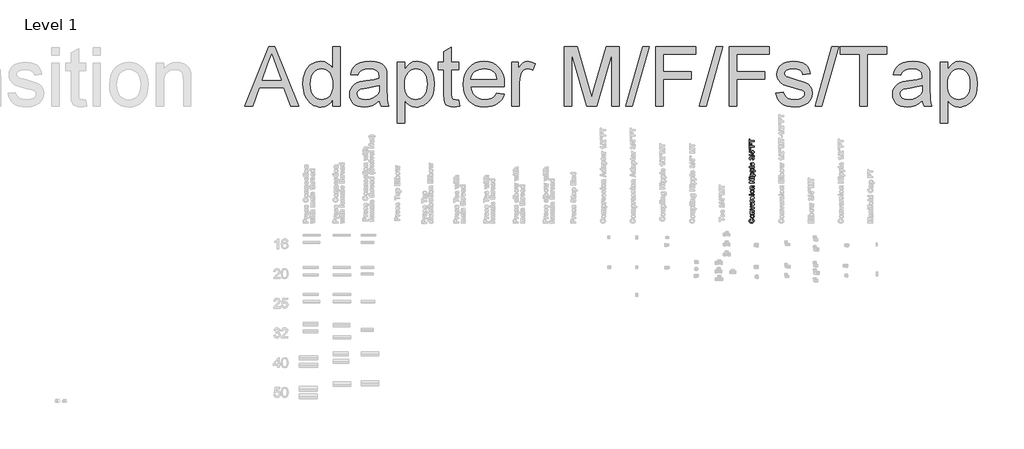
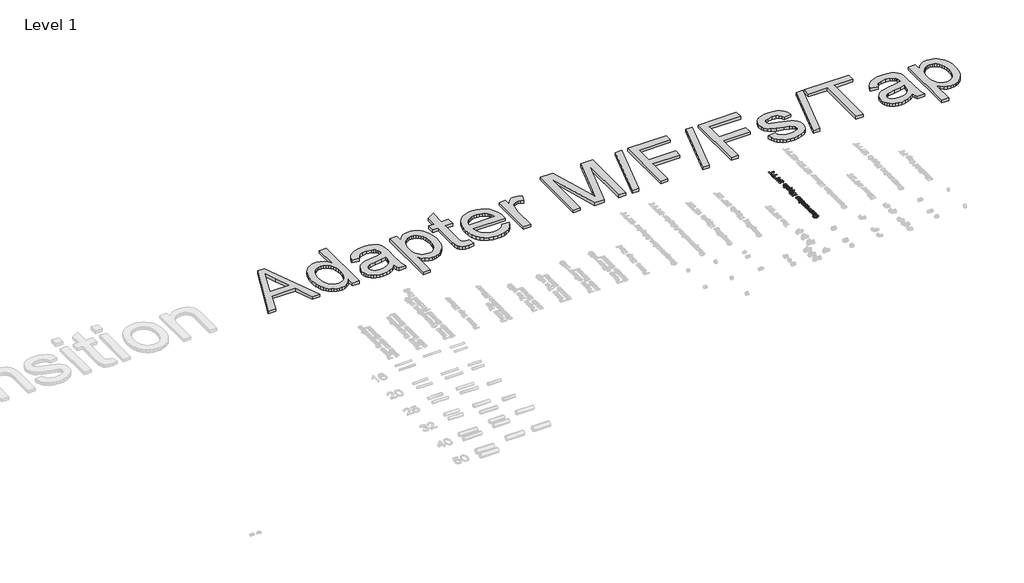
# One storey, part 56 of 58: 2 proxies.
"""IFC4 building model written with IfcOpenShell, lengths in millimetres."""

from ifc_helpers import new_model, si_unit, frame, origin, place, context, project, spatial, polyline, outline, extrude, element, save

model = new_model("IFC4")

# Units and contexts
model_context = context("Model", 3, world=origin())
ifc_project = project(units=[si_unit("LENGTHUNIT", "METRE", prefix="MILLI")], contexts=[model_context])

# Site, building, storey
site = spatial("IfcSite", under=ifc_project)
building = spatial("IfcBuilding", under=site)
storey = spatial("IfcBuildingStorey", under=building, Name="Level 1", Elevation=27.3876384)

# Proxies
placement = place(None, origin())
element("IfcBuildingElementProxy", 1, Name="50mm Arial", ObjectType="50mm Arial", at=placement, inside=storey, context=model_context, shape_type="SweptSolid", body=[
    extrude(outline(polyline([(33899.7082138, 30439.3748851), (33902.9471325, 30449.0916413), (33915.1500119, 30441.4371654), (33919.1417262, 30427.8488892), (33917.4368656, 30418.5717909), (33912.322284, 30411.1102584), (33904.2502912, 30406.1949462), (33893.6731973, 30404.5565088), (33882.5583922, 30406.2091797), (33874.2396849, 30411.1671925), (33869.0491911, 30418.8200869), (33867.3190265, 30428.5574026), (33868.7455425, 30437.0848684), (33873.0250904, 30443.8410504), (33882.7038905, 30449.0916413), (33884.3233498, 30439.3748851), (33878.3958755, 30435.3452148), (33876.226053, 30427.8868453), (33880.1671592, 30418.0498948), (33892.9267277, 30414.273265), (33906.2619634, 30417.9360266), (33910.2346997, 30427.4693284), (33907.6979684, 30434.9023938), (33899.7082138, 30439.3748851)])), frame((0.0, 0.0, 27.3876384), z_axis=(0.0, 0.0, 1.0), x_axis=(1.0, 0.0, 0.0)), (0.0, 0.0, 1.0), 2.0),
    extrude(outline(polyline([(33899.9865584, 30454.7597491), (33890.5038647, 30457.1573081), (33883.5009681, 30463.9451202), (33881.0844311, 30473.7504406), (33886.5627585, 30487.4715631), (33900.4167273, 30492.8170442), (33914.4035423, 30487.4146289), (33919.9514559, 30473.8263527), (33917.6424611, 30464.1538786), (33910.867301, 30457.1573081), (33899.9865584, 30454.7597491)]), holes=[polyline([(33900.5179435, 30464.4765053), (33909.5325122, 30467.1650609), (33912.6638887, 30473.8010487), (33909.5325122, 30480.4243844), (33900.4420313, 30483.100288), (33891.5033747, 30480.4243844), (33888.3719982, 30473.8010487), (33891.5033747, 30467.1650609), (33900.5179435, 30464.4765053)])]), frame((0.0, 0.0, 27.3876384), z_axis=(0.0, 0.0, 1.0), x_axis=(1.0, 0.0, 0.0)), (0.0, 0.0, 1.0), 2.0),
    extrude(outline(polyline([(33919.1417262, 30533.3035283), (33919.1417262, 30523.5867721), (33899.9992104, 30523.5867721), (33892.1296501, 30522.9794748), (33889.3588563, 30520.9931067), (33888.3719982, 30517.6909279), (33889.7826992, 30513.2437406), (33893.527699, 30510.548859), (33902.1500549, 30509.8213675), (33919.1417262, 30509.8213675), (33919.1417262, 30500.1046113), (33881.8941608, 30500.1046113), (33881.8941608, 30509.8213675), (33887.2586199, 30509.8213675), (33882.6279783, 30515.0371653), (33881.0844311, 30521.4485797), (33882.2610695, 30527.0913834), (33885.2595998, 30530.9629034), (33889.3904864, 30532.7911212), (33896.0138221, 30533.3035283), (33919.1417262, 30533.3035283)])), frame((0.0, 0.0, 27.3876384), z_axis=(0.0, 0.0, 1.0), x_axis=(1.0, 0.0, 0.0)), (0.0, 0.0, 1.0), 2.0),
    extrude(outline(polyline([(33919.1417262, 30553.0153853), (33881.8941608, 30538.5667712), (33881.8941608, 30548.2835274), (33900.8975043, 30555.1915338), (33907.2488215, 30557.1905539), (33904.0605108, 30558.177412), (33900.8975043, 30559.2022261), (33881.8941608, 30566.0975804), (33881.8941608, 30575.8143366), (33919.1417262, 30561.568155), (33919.1417262, 30553.0153853)])), frame((0.0, 0.0, 27.3876384), z_axis=(0.0, 0.0, 1.0), x_axis=(1.0, 0.0, 0.0)), (0.0, 0.0, 1.0), 2.0),
    extrude(outline(polyline([(33907.8055106, 30602.940281), (33909.42497, 30612.6570372), (33917.2629003, 30606.8624091), (33919.9514559, 30596.9558726), (33918.3667896, 30588.7668485), (33913.6127907, 30583.0259916), (33900.7962881, 30579.4581202), (33886.32237, 30584.189978), (33881.0844311, 30596.1587949), (33886.4615423, 30608.9752975), (33902.9471325, 30613.4667669), (33902.9471325, 30589.1748764), (33910.1081794, 30591.4648931), (33912.6638887, 30596.9179165), (33911.5125543, 30600.6502642), (33907.8055106, 30602.940281)]), holes=[polyline([(33897.2790248, 30603.7500107), (33890.643037, 30601.5865142), (33888.3719982, 30596.5763118), (33890.7632312, 30591.3636769), (33897.2790248, 30589.3393527), (33897.2790248, 30603.7500107)])]), frame((0.0, 0.0, 27.3876384), z_axis=(0.0, 0.0, 1.0), x_axis=(1.0, 0.0, 0.0)), (0.0, 0.0, 1.0), 2.0),
    extrude(outline(polyline([(33919.1417262, 30630.4710902), (33919.1417262, 30620.754334), (33881.8941608, 30620.754334), (33881.8941608, 30630.4710902), (33887.0814916, 30630.4710902), (33882.2420915, 30634.3552623), (33881.0844311, 30638.2773904), (33883.1340594, 30644.2364948), (33892.3826906, 30641.4024409), (33890.8011873, 30636.8983196), (33891.9082396, 30633.4759464), (33895.8999539, 30631.2744939), (33907.995291, 30630.4710902), (33919.1417262, 30630.4710902)])), frame((0.0, 0.0, 27.3876384), z_axis=(0.0, 0.0, 1.0), x_axis=(1.0, 0.0, 0.0)), (0.0, 0.0, 1.0), 2.0),
    extrude(outline(polyline([(33908.6152403, 30644.2364948), (33906.9957809, 30653.953251), (33911.2215577, 30656.4393742), (33912.6638887, 30661.6836391), (33911.2848179, 30667.2631826), (33908.7038045, 30668.5283853), (33906.8819127, 30667.8578279), (33905.604058, 30664.6821693), (33900.8468962, 30650.119687), (33892.4839068, 30645.8559542), (33884.3739579, 30649.5123898), (33881.0844311, 30660.8612573), (33883.7413566, 30671.7293479), (33891.610917, 30676.6256821), (33893.2303763, 30666.9089259), (33889.6245488, 30665.036426), (33888.3719982, 30661.1142979), (33889.4347685, 30656.4963083), (33891.4084846, 30655.5727104), (33893.1671162, 30656.4963083), (33895.8873019, 30665.0933601), (33900.2269469, 30675.3604795), (33907.527166, 30678.2451415), (33916.2886943, 30674.0636468), (33919.9514559, 30661.6836391), (33916.9023175, 30649.9109286), (33908.6152403, 30644.2364948)])), frame((0.0, 0.0, 27.3876384), z_axis=(0.0, 0.0, 1.0), x_axis=(1.0, 0.0, 0.0)), (0.0, 0.0, 1.0), 2.0),
    extrude(outline(polyline([(33919.1417262, 30687.152168), (33881.8941608, 30687.152168), (33881.8941608, 30696.8689242), (33919.1417262, 30696.8689242), (33919.1417262, 30687.152168)])), frame((0.0, 0.0, 27.3876384), z_axis=(0.0, 0.0, 1.0), x_axis=(1.0, 0.0, 0.0)), (0.0, 0.0, 1.0), 2.0),
    extrude(outline(polyline([(33877.0357827, 30687.152168), (33868.1287562, 30687.152168), (33868.1287562, 30696.8689242), (33877.0357827, 30696.8689242), (33877.0357827, 30687.152168)])), frame((0.0, 0.0, 27.3876384), z_axis=(0.0, 0.0, 1.0), x_axis=(1.0, 0.0, 0.0)), (0.0, 0.0, 1.0), 2.0),
    extrude(outline(polyline([(33899.9865584, 30704.1564913), (33890.5038647, 30706.5540503), (33883.5009681, 30713.3418624), (33881.0844311, 30723.1471828), (33886.5627585, 30736.8683053), (33900.4167273, 30742.2137864), (33914.4035423, 30736.8113712), (33919.9514559, 30723.2230949), (33917.6424611, 30713.5506208), (33910.867301, 30706.5540503), (33899.9865584, 30704.1564913)]), holes=[polyline([(33900.5179435, 30713.8732475), (33909.5325122, 30716.5618031), (33912.6638887, 30723.1977909), (33909.5325122, 30729.8211266), (33900.4420313, 30732.4970302), (33891.5033747, 30729.8211266), (33888.3719982, 30723.1977909), (33891.5033747, 30716.5618031), (33900.5179435, 30713.8732475)])]), frame((0.0, 0.0, 27.3876384), z_axis=(0.0, 0.0, 1.0), x_axis=(1.0, 0.0, 0.0)), (0.0, 0.0, 1.0), 2.0),
    extrude(outline(polyline([(33919.1417262, 30782.7002705), (33919.1417262, 30772.9835143), (33899.9992104, 30772.9835143), (33892.1296501, 30772.3762171), (33889.3588563, 30770.3898489), (33888.3719982, 30767.0876701), (33889.7826992, 30762.6404828), (33893.527699, 30759.9456012), (33902.1500549, 30759.2181097), (33919.1417262, 30759.2181097), (33919.1417262, 30749.5013535), (33881.8941608, 30749.5013535), (33881.8941608, 30759.2181097), (33887.2586199, 30759.2181097), (33882.6279783, 30764.4339076), (33881.0844311, 30770.8453219), (33882.2610695, 30776.4881256), (33885.2595998, 30780.3596456), (33889.3904864, 30782.1878634), (33896.0138221, 30782.7002705), (33919.1417262, 30782.7002705)])), frame((0.0, 0.0, 27.3876384), z_axis=(0.0, 0.0, 1.0), x_axis=(1.0, 0.0, 0.0)), (0.0, 0.0, 1.0), 2.0),
    extrude(outline(polyline([(33919.1417262, 30811.8505391), (33868.1287562, 30811.8505391), (33868.1287562, 30822.0354202), (33902.4663555, 30843.4299967), (33868.1287562, 30843.4299967), (33868.1287562, 30853.1467529), (33919.1417262, 30853.1467529), (33919.1417262, 30842.6455711), (33885.3102079, 30821.5672953), (33919.1417262, 30821.5672953), (33919.1417262, 30811.8505391)])), frame((0.0, 0.0, 27.3876384), z_axis=(0.0, 0.0, 1.0), x_axis=(1.0, 0.0, 0.0)), (0.0, 0.0, 1.0), 2.0),
    extrude(outline(polyline([(33919.1417262, 30862.8635091), (33881.8941608, 30862.8635091), (33881.8941608, 30872.5802653), (33919.1417262, 30872.5802653), (33919.1417262, 30862.8635091)])), frame((0.0, 0.0, 27.3876384), z_axis=(0.0, 0.0, 1.0), x_axis=(1.0, 0.0, 0.0)), (0.0, 0.0, 1.0), 2.0),
    extrude(outline(polyline([(33877.0357827, 30862.8635091), (33868.1287562, 30862.8635091), (33868.1287562, 30872.5802653), (33877.0357827, 30872.5802653), (33877.0357827, 30862.8635091)])), frame((0.0, 0.0, 27.3876384), z_axis=(0.0, 0.0, 1.0), x_axis=(1.0, 0.0, 0.0)), (0.0, 0.0, 1.0), 2.0),
    extrude(outline(polyline([(33881.8941608, 30882.2970215), (33881.8941608, 30892.0137776), (33887.2586199, 30892.0137776), (33882.7924546, 30896.6317672), (33881.0844311, 30903.0969527), (33886.1642197, 30913.6044605), (33900.302859, 30917.9251275), (33914.7894291, 30913.4652882), (33919.9514559, 30902.6541318), (33918.7495134, 30897.1758044), (33914.6249528, 30892.0137776), (33932.9071308, 30892.0137776), (33932.9071308, 30882.2970215), (33881.8941608, 30882.2970215)]), holes=[polyline([(33899.8726901, 30892.0137776), (33909.5388382, 30894.4492927), (33912.6638887, 30900.3894191), (33909.7982048, 30905.9752887), (33900.3914232, 30908.2083713), (33891.3325724, 30905.9120285), (33888.3719982, 30900.2122907), (33891.2756383, 30894.3480765), (33899.8726901, 30892.0137776)])]), frame((0.0, 0.0, 27.3876384), z_axis=(0.0, 0.0, 1.0), x_axis=(1.0, 0.0, 0.0)), (0.0, 0.0, 1.0), 2.0),
    extrude(outline(polyline([(33881.8941608, 30925.2126946), (33881.8941608, 30934.9294508), (33887.2586199, 30934.9294508), (33882.7924546, 30939.5474404), (33881.0844311, 30946.0126258), (33886.1642197, 30956.5201337), (33900.302859, 30960.8408007), (33914.7894291, 30956.3809614), (33919.9514559, 30945.5698049), (33918.7495134, 30940.0914775), (33914.6249528, 30934.9294508), (33932.9071308, 30934.9294508), (33932.9071308, 30925.2126946), (33881.8941608, 30925.2126946)]), holes=[polyline([(33899.8726901, 30934.9294508), (33909.5388382, 30937.3649659), (33912.6638887, 30943.3050922), (33909.7982048, 30948.8909618), (33900.3914232, 30951.1240445), (33891.3325724, 30948.8277017), (33888.3719982, 30943.1279639), (33891.2756383, 30937.2637497), (33899.8726901, 30934.9294508)])]), frame((0.0, 0.0, 27.3876384), z_axis=(0.0, 0.0, 1.0), x_axis=(1.0, 0.0, 0.0)), (0.0, 0.0, 1.0), 2.0),
    extrude(outline(polyline([(33919.1417262, 30968.1283678), (33868.1287562, 30968.1283678), (33868.1287562, 30977.845124), (33919.1417262, 30977.845124), (33919.1417262, 30968.1283678)])), frame((0.0, 0.0, 27.3876384), z_axis=(0.0, 0.0, 1.0), x_axis=(1.0, 0.0, 0.0)), (0.0, 0.0, 1.0), 2.0),
    extrude(outline(polyline([(33907.8055106, 31008.6148519), (33909.42497, 31018.3316081), (33917.2629003, 31012.5369801), (33919.9514559, 31002.6304435), (33918.3667896, 30994.4414195), (33913.6127907, 30988.7005625), (33900.7962881, 30985.1326911), (33886.32237, 30989.864549), (33881.0844311, 31001.8333658), (33886.4615423, 31014.6498685), (33902.9471325, 31019.1413378), (33902.9471325, 30994.8494473), (33910.1081794, 30997.1394641), (33912.6638887, 31002.5924874), (33911.5125543, 31006.3248352), (33907.8055106, 31008.6148519)]), holes=[polyline([(33897.2790248, 31009.4245816), (33890.643037, 31007.2610851), (33888.3719982, 31002.2508827), (33890.7632312, 30997.0382479), (33897.2790248, 30995.0139237), (33897.2790248, 31009.4245816)])]), frame((0.0, 0.0, 27.3876384), z_axis=(0.0, 0.0, 1.0), x_axis=(1.0, 0.0, 0.0)), (0.0, 0.0, 1.0), 2.0),
    extrude(outline(polyline([(33904.8828926, 31044.242958), (33903.7568622, 31053.9597141), (33909.1719295, 31056.1485147), (33911.0444294, 31060.4628557), (33908.8999109, 31065.0555412), (33903.1242609, 31066.9153891), (33897.6712376, 31065.2136915), (33895.6595654, 31061.0575009), (33896.3807309, 31057.1986329), (33888.3719982, 31058.0463186), (33886.7778429, 31062.8351106), (33882.2737216, 31064.4862), (33878.4591356, 31063.2526275), (33877.0357827, 31059.9694266), (33878.6868721, 31056.5090974), (33883.5136201, 31054.7694438), (33882.0586371, 31045.0526876), (33874.3345751, 31047.7285912), (33869.7861716, 31052.7261416), (33868.1287562, 31059.9061665), (33872.7214417, 31070.8122132), (33881.2236034, 31074.2029562), (33887.2617829, 31072.3842274), (33891.9398697, 31066.9280411), (33896.1087123, 31073.9878718), (33903.9339906, 31076.6321453), (33915.2638801, 31071.9445695), (33919.9514559, 31060.2730753), (33915.7826132, 31049.2974425), (33904.8828926, 31044.242958)])), frame((0.0, 0.0, 27.3876384), z_axis=(0.0, 0.0, 1.0), x_axis=(1.0, 0.0, 0.0)), (0.0, 0.0, 1.0), 2.0),
    extrude(outline(polyline([(33919.1417262, 31079.6939356), (33868.1287562, 31091.8398809), (33868.1287562, 31099.3045764), (33919.1417262, 31087.1586311), (33919.1417262, 31079.6939356)])), frame((0.0, 0.0, 27.3876384), z_axis=(0.0, 0.0, 1.0), x_axis=(1.0, 0.0, 0.0)), (0.0, 0.0, 1.0), 2.0),
    extrude(outline(polyline([(33919.1417262, 31120.3575481), (33908.6152403, 31120.3575481), (33908.6152403, 31100.9240357), (33900.5558996, 31100.9240357), (33868.9384859, 31121.6480548), (33868.9384859, 31130.0743043), (33900.5179435, 31130.0743043), (33900.5179435, 31136.5521418), (33908.6152403, 31136.5521418), (33908.6152403, 31130.0743043), (33919.1417262, 31130.0743043), (33919.1417262, 31120.3575481)]), holes=[polyline([(33900.5179435, 31120.3575481), (33883.943789, 31120.3575481), (33900.5179435, 31109.5021096), (33900.5179435, 31120.3575481)])]), frame((0.0, 0.0, 27.3876384), z_axis=(0.0, 0.0, 1.0), x_axis=(1.0, 0.0, 0.0)), (0.0, 0.0, 1.0), 2.0),
    extrude(outline(polyline([(33885.9428092, 31159.287833), (33876.6056138, 31157.6051135), (33868.1287562, 31157.6051135), (33868.1287562, 31167.3218697), (33876.6056138, 31167.3218697), (33885.9428092, 31165.8668867), (33885.9428092, 31159.287833)])), frame((0.0, 0.0, 27.3876384), z_axis=(0.0, 0.0, 1.0), x_axis=(1.0, 0.0, 0.0)), (0.0, 0.0, 1.0), 2.0),
    extrude(outline(polyline([(33885.9428092, 31143.0932394), (33876.6056138, 31141.4105199), (33868.1287562, 31141.4105199), (33868.1287562, 31151.127276), (33876.6056138, 31151.127276), (33885.9428092, 31149.672293), (33885.9428092, 31143.0932394)])), frame((0.0, 0.0, 27.3876384), z_axis=(0.0, 0.0, 1.0), x_axis=(1.0, 0.0, 0.0)), (0.0, 0.0, 1.0), 2.0),
    extrude(outline(polyline([(33919.1417262, 31176.2288962), (33868.1287562, 31176.2288962), (33868.1287562, 31211.0472726), (33877.0357827, 31211.0472726), (33877.0357827, 31185.9456524), (33888.3719982, 31185.9456524), (33888.3719982, 31207.8083538), (33897.2790248, 31207.8083538), (33897.2790248, 31185.9456524), (33919.1417262, 31185.9456524), (33919.1417262, 31176.2288962)])), frame((0.0, 0.0, 27.3876384), z_axis=(0.0, 0.0, 1.0), x_axis=(1.0, 0.0, 0.0)), (0.0, 0.0, 1.0), 2.0),
    extrude(outline(polyline([(33919.1417262, 31230.4807849), (33877.0357827, 31230.4807849), (33877.0357827, 31215.9056506), (33868.1287562, 31215.9056506), (33868.1287562, 31254.7726754), (33877.0357827, 31254.7726754), (33877.0357827, 31240.1975411), (33919.1417262, 31240.1975411), (33919.1417262, 31230.4807849)])), frame((0.0, 0.0, 27.3876384), z_axis=(0.0, 0.0, 1.0), x_axis=(1.0, 0.0, 0.0)), (0.0, 0.0, 1.0), 2.0),
])
element("IfcBuildingElementProxy", 2, Name="600mm Arial", ObjectType="600mm Arial", at=placement, inside=storey, context=model_context, shape_type="SweptSolid", body=[
    extrude(outline(polyline([(28776.5509061, 31587.8685592), (29017.145731, 32190.6064201), (29081.3043509, 32190.6064201), (29321.8991758, 31587.8685592), (29242.289512, 31587.8685592), (29173.2748497, 31776.2241407), (28925.0280794, 31776.2241407), (28856.1605699, 31587.8685592), (28776.5509061, 31587.8685592)]), holes=[polyline([(28952.6928054, 31851.5663733), (29145.7572765, 31851.5663733), (29091.457894, 31999.749241), (29049.2250409, 32115.2641875), (29011.7010774, 32012.6986872), (28952.6928054, 31851.5663733)])]), frame((0.0, 0.0, 27.3876384), z_axis=(0.0, 0.0, 1.0), x_axis=(1.0, 0.0, 0.0)), (0.0, 0.0, 1.0), 30.0),
    extrude(outline(polyline([(29666.0895704, 31587.8685592), (29666.0895704, 31658.9433607), (29643.5476012, 31623.7278567), (29616.2415601, 31598.5739253), (29584.1714472, 31583.4815664), (29547.3372624, 31578.4507801), (29522.4684395, 31580.271796), (29498.6296862, 31585.7348436), (29475.8210025, 31594.839923), (29454.0423884, 31607.5870341), (29433.9744256, 31623.5944994), (29416.2976957, 31642.4806414), (29401.0121988, 31664.2454599), (29388.1179349, 31688.8889551), (29377.8816184, 31715.9420773), (29370.5699637, 31744.935777), (29364.72064, 31808.7449091), (29370.1101112, 31871.7630949), (29386.2785249, 31928.6744395), (29398.4002367, 31954.030706), (29413.207487, 31976.2415815), (29430.7002758, 31995.3070659), (29450.8786033, 32011.2271592), (29473.0296979, 32023.7811323), (29496.4407884, 32032.748256), (29521.1118747, 32038.1285301), (29547.0429568, 32039.9219549), (29583.9047327, 32034.790001), (29616.4990775, 32019.3941395), (29644.1270153, 31995.7945095), (29666.0895704, 31966.0512502), (29666.0895704, 32190.6064201), (29741.4318031, 32190.6064201), (29741.4318031, 31587.8685592), (29666.0895704, 31587.8685592)]), holes=[polyline([(29440.0628726, 31809.0392147), (29442.1873911, 31772.503934), (29448.5609467, 31740.8890751), (29459.1835393, 31714.1946378), (29474.055169, 31692.4206222), (29491.8146723, 31675.5210431), (29511.1008859, 31663.4499151), (29531.9138098, 31656.2072383), (29554.2534439, 31653.7930127), (29576.6988441, 31656.0968737), (29597.3876078, 31663.0084567), (29616.319735, 31674.5277617), (29633.4952257, 31690.6547886), (29647.7552515, 31711.5182963), (29657.9409843, 31737.2470433), (29664.0524239, 31767.8410298), (29666.0895704, 31803.3002556), (29664.0156357, 31842.1761854), (29657.7938315, 31875.5154912), (29647.4241577, 31903.318173), (29632.9066145, 31925.5842308), (29615.3540448, 31942.6447583), (29595.8792917, 31954.8308494), (29574.4823551, 31962.142504), (29551.1632352, 31964.5797223), (29528.3821426, 31962.2390731), (29507.5692187, 31955.2171255), (29488.7244635, 31943.5138795), (29471.847877, 31927.1293351), (29457.9419376, 31905.7048075), (29448.0091237, 31878.8816115), (29442.0494354, 31846.6597472), (29440.0628726, 31809.0392147)])]), frame((0.0, 0.0, 27.3876384), z_axis=(0.0, 0.0, 1.0), x_axis=(1.0, 0.0, 0.0)), (0.0, 0.0, 1.0), 30.0),
    extrude(outline(polyline([(30136.9785243, 31644.3752337), (30100.981271, 31613.5099343), (30063.91716, 31593.3132127), (30024.9400626, 31582.1663883), (29983.2038503, 31578.4507801), (29949.6576109, 31580.6856632), (29920.2408468, 31587.3903126), (29894.9535582, 31598.5647282), (29873.7957449, 31614.20891), (29857.0893038, 31633.3295767), (29845.1561316, 31654.9334469), (29837.9962283, 31679.0205205), (29835.6095938, 31705.5907976), (29839.2148374, 31736.823979), (29850.030568, 31765.1876809), (29866.7140165, 31789.4678925), (29887.9224135, 31808.4506035), (29912.8464187, 31822.7980013), (29940.6766916, 31833.1722736), (30005.8653812, 31844.503039), (30082.899871, 31856.4224157), (30136.5370659, 31870.4019315), (30136.9785243, 31887.1773505), (30131.7913881, 31920.8017648), (30125.307468, 31933.2545704), (30116.2299797, 31942.8011081), (30100.5398126, 31952.3292518), (30081.428343, 31959.1350687), (30032.941496, 31964.5797223), (29988.0598926, 31960.9560846), (29956.7163466, 31950.0851716), (29935.3424027, 31929.9804206), (29920.3696055, 31898.6552687), (29845.0273729, 31908.0730478), (29858.1055778, 31949.2758313), (29877.6217177, 31981.6494468), (29905.3968083, 32006.4079051), (29943.2518656, 32024.7652167), (29989.5498147, 32036.1327703), (30042.6535807, 32039.9219549), (30093.5868429, 32036.5742287), (30133.9618919, 32026.5310502), (30164.404127, 32011.4294943), (30185.5389476, 31992.9066359), (30199.5552516, 31970.0059817), (30208.6419369, 31941.7710386), (30212.3207569, 31875.846585), (30212.3207569, 31782.1102526), (30216.1467296, 31651.2178388), (30221.8121124, 31618.8626173), (30231.156315, 31587.8685592), (30155.8140824, 31587.8685592), (30143.747553, 31614.0617572), (30136.9785243, 31644.3752337)]), holes=[polyline([(30136.9785243, 31795.0596989), (30086.3579617, 31782.5149228), (30015.4303131, 31771.9567096), (29950.6095055, 31759.7430273), (29933.742116, 31751.392106), (29921.2525223, 31739.8773996), (29913.5270004, 31726.0818248), (29910.9518264, 31710.8882984), (29916.5620269, 31688.4842849), (29933.3926281, 31670.1269733), (29961.0757483, 31657.8765029), (29999.2435053, 31653.7930127), (30039.7105247, 31658.2995672), (30075.4686547, 31671.8192305), (30104.4577559, 31691.7400405), (30124.6176892, 31715.4500351), (30133.5572217, 31739.8773996), (30136.5370659, 31773.7225432), (30136.9785243, 31795.0596989)])]), frame((0.0, 0.0, 27.3876384), z_axis=(0.0, 0.0, 1.0), x_axis=(1.0, 0.0, 0.0)), (0.0, 0.0, 1.0), 30.0),
    extrude(outline(polyline([(30315.9163267, 31418.3485358), (30315.9163267, 32030.5041758), (30391.2585593, 32030.5041758), (30391.2585593, 31956.6334712), (30415.8330766, 31993.0721828), (30443.3506499, 32019.0998339), (30475.4299598, 32034.7164246), (30513.6896873, 32039.9219549), (30539.9656588, 32038.100939), (30564.6413437, 32032.6378914), (30587.7167418, 32023.532812), (30609.1918533, 32010.7857008), (30628.5976285, 31994.7276518), (30645.465018, 31975.6897585), (30659.7940217, 31953.6720211), (30671.5846397, 31928.6744395), (30687.3667773, 31873.1610465), (30692.6274898, 31812.5708818), (30686.6861956, 31748.1363504), (30679.2595778, 31718.471266), (30668.8623129, 31690.5076358), (30655.6369552, 31664.9766254), (30639.7260589, 31642.6094001), (30621.129624, 31623.4059599), (30599.8476506, 31607.3663049), (30576.9240038, 31594.7157628), (30553.4025487, 31585.6796613), (30529.2832854, 31580.2580004), (30504.5662139, 31578.4507801), (30469.930124, 31583.2884284), (30439.0096423, 31597.8013731), (30412.5405328, 31619.7087459), (30391.2585593, 31646.7296784), (30391.2585593, 31418.3485358), (30315.9163267, 31418.3485358)]), holes=[polyline([(30391.2585593, 31805.6547003), (30393.2957059, 31769.3447474), (30399.4071455, 31738.111566), (30409.5928783, 31711.9551562), (30423.8529041, 31690.8755178), (30441.0191977, 31674.6519219), (30459.9237337, 31663.063639), (30480.5665122, 31656.1106693), (30502.9475331, 31653.7930127), (30525.6504507, 31656.1934427), (30546.6703082, 31663.3947328), (30566.0071056, 31675.3968829), (30583.6608428, 31692.199893), (30598.3715241, 31714.0428865), (30608.8791536, 31741.1649866), (30615.1837313, 31773.5661933), (30617.2852572, 31811.2465067), (30615.234315, 31847.2437599), (30609.0814887, 31878.421759), (30598.8267781, 31904.7805039), (30584.4701832, 31926.3199948), (30567.2625029, 31943.0586255), (30548.4545359, 31955.0147904), (30528.0462822, 31962.1884893), (30506.0377418, 31964.5797223), (30484.0981793, 31962.036738), (30463.4554009, 31954.4077851), (30444.1094065, 31941.6928636), (30426.0601961, 31923.8919736), (30410.83448, 31901.2442383), (30399.9589685, 31873.9887809), (30393.4336616, 31842.1256016), (30391.2585593, 31805.6547003)])]), frame((0.0, 0.0, 27.3876384), z_axis=(0.0, 0.0, 1.0), x_axis=(1.0, 0.0, 0.0)), (0.0, 0.0, 1.0), 30.0),
    extrude(outline(polyline([(30937.4897458, 31650.702804), (30946.9075249, 31585.6612672), (30890.5480032, 31578.4507801), (30854.3852031, 31581.5777771), (30827.4194528, 31590.958768), (30808.3631655, 31605.4165304), (30795.928754, 31623.7738419), (30789.0861489, 31655.3013289), (30786.8052805, 31709.2696176), (30786.8052805, 31955.1619432), (30730.2986061, 31955.1619432), (30730.2986061, 32030.5041758), (30786.8052805, 32030.5041758), (30786.8052805, 32138.0728712), (30862.1475132, 32182.3658634), (30862.1475132, 32030.5041758), (30937.4897458, 32030.5041758), (30937.4897458, 31955.1619432), (30862.1475132, 31955.1619432), (30862.1475132, 31711.4769096), (30866.1206387, 31672.6285709), (30878.9965085, 31658.8697843), (30889.8674215, 31655.0622056), (30904.6746718, 31653.7930127), (30937.4897458, 31650.702804)])), frame((0.0, 0.0, 27.3876384), z_axis=(0.0, 0.0, 1.0), x_axis=(1.0, 0.0, 0.0)), (0.0, 0.0, 1.0), 30.0),
    extrude(outline(polyline([(31322.7357711, 31719.7174663), (31396.6064758, 31710.2996872), (31385.2803088, 31680.7127777), (31369.9902134, 31654.6391413), (31350.7361895, 31632.078778), (31327.5182371, 31613.0316877), (31300.5754794, 31597.9025406), (31270.1470399, 31587.096007), (31236.2329185, 31580.6120868), (31198.8331151, 31578.4507801), (31152.0845106, 31582.1801838), (31110.4310717, 31593.368395), (31073.8727984, 31612.0154137), (31042.4096908, 31638.1212397), (31017.1086066, 31670.9593063), (30999.0364036, 31709.8030465), (30988.1930818, 31754.6524602), (30984.5786412, 31805.5075475), (30988.22987, 31858.0870817), (30999.1835564, 31904.431016), (31017.4397004, 31944.5393506), (31042.998302, 31978.4120853), (31074.3786362, 32005.3226532), (31110.0999779, 32024.5444875), (31150.1623272, 32036.077588), (31194.565684, 32039.9219549), (31237.5388996, 32036.0867851), (31276.4010338, 32024.5812757), (31311.1520868, 32005.4054267), (31341.7920585, 31978.5592381), (31366.8034356, 31944.7600798), (31384.668705, 31904.7253216), (31395.3878666, 31858.4549637), (31398.9609205, 31805.9490059), (31398.5194621, 31785.6419198), (31059.9208738, 31785.6419198), (31064.2848739, 31755.5767637), (31072.9622905, 31729.2456099), (31085.9531235, 31706.6484584), (31103.2573728, 31687.7853091), (31123.9185454, 31672.9136794), (31146.9801479, 31662.2910868), (31172.4421805, 31655.9175313), (31200.3046431, 31653.7930127), (31240.4037806, 31657.7293501), (31274.1753478, 31669.5383621), (31301.6193446, 31689.9558129), (31322.7357711, 31719.7174663)]), holes=[polyline([(31059.9208738, 31860.9841524), (31323.6186879, 31860.9841524), (31313.4283566, 31900.7889843), (31304.6635681, 31916.4423632), (31293.4523643, 31929.2630507), (31272.9061549, 31944.7140945), (31249.5272541, 31955.7505544), (31223.3156619, 31962.3724303), (31194.2713784, 31964.5797223), (31167.7792762, 31962.8184872), (31143.485269, 31957.534782), (31121.3893566, 31948.7286068), (31101.4915392, 31936.3999614), (31084.7942952, 31921.119063), (31072.3001029, 31903.4561288), (31064.0089624, 31883.4111585), (31059.9208738, 31860.9841524)])]), frame((0.0, 0.0, 27.3876384), z_axis=(0.0, 0.0, 1.0), x_axis=(1.0, 0.0, 0.0)), (0.0, 0.0, 1.0), 30.0),
    extrude(outline(polyline([(31474.3031531, 31587.8685592), (31474.3031531, 32030.5041758), (31540.2276067, 32030.5041758), (31540.2276067, 31965.0211806), (31564.5813948, 32002.9866025), (31587.0221965, 32025.3538279), (31609.5365746, 32036.2799231), (31634.1110918, 32039.9219549), (31671.6350553, 32034.1094193), (31709.74763, 32016.6718128), (31684.5845016, 31949.1286785), (31658.0969979, 31960.7169613), (31631.6094943, 31964.5797223), (31609.1135103, 31960.8641141), (31589.0087592, 31949.7172896), (31572.7667691, 31931.9853775), (31561.859068, 31908.5145062), (31552.6988063, 31866.4288059), (31549.6453857, 31820.5171329), (31549.6453857, 31587.8685592), (31474.3031531, 31587.8685592)])), frame((0.0, 0.0, 27.3876384), z_axis=(0.0, 0.0, 1.0), x_axis=(1.0, 0.0, 0.0)), (0.0, 0.0, 1.0), 30.0),
    extrude(outline(polyline([(32001.6987814, 31587.8685592), (32001.6987814, 32190.6064201), (32131.3403965, 32190.6064201), (32254.6544413, 31765.7762921), (32279.5232642, 31677.0431548), (32306.4522262, 31773.133932), (32427.7061318, 32190.6064201), (32557.3477469, 32190.6064201), (32557.3477469, 31587.8685592), (32482.0055143, 31587.8685592), (32482.0055143, 32115.2641875), (32330.5852851, 31587.8685592), (32228.4612432, 31587.8685592), (32077.041014, 32115.2641875), (32077.041014, 31587.8685592), (32001.6987814, 31587.8685592)])), frame((0.0, 0.0, 27.3876384), z_axis=(0.0, 0.0, 1.0), x_axis=(1.0, 0.0, 0.0)), (0.0, 0.0, 1.0), 30.0),
    extrude(outline(polyline([(32623.2722005, 31587.8685592), (32792.7922238, 32190.6064201), (32860.7768166, 32190.6064201), (32691.2567932, 31587.8685592), (32623.2722005, 31587.8685592)])), frame((0.0, 0.0, 27.3876384), z_axis=(0.0, 0.0, 1.0), x_axis=(1.0, 0.0, 0.0)), (0.0, 0.0, 1.0), 30.0),
    extrude(outline(polyline([(32924.6411309, 31587.8685592), (32924.6411309, 32190.6064201), (33329.6056312, 32190.6064201), (33329.6056312, 32115.2641875), (32999.9833635, 32115.2641875), (32999.9833635, 31936.326385), (33282.5167358, 31936.326385), (33282.5167358, 31860.9841524), (32999.9833635, 31860.9841524), (32999.9833635, 31587.8685592), (32924.6411309, 31587.8685592)])), frame((0.0, 0.0, 27.3876384), z_axis=(0.0, 0.0, 1.0), x_axis=(1.0, 0.0, 0.0)), (0.0, 0.0, 1.0), 30.0),
    extrude(outline(polyline([(33367.2767475, 31587.8685592), (33536.7967709, 32190.6064201), (33604.7813636, 32190.6064201), (33435.2613402, 31587.8685592), (33367.2767475, 31587.8685592)])), frame((0.0, 0.0, 27.3876384), z_axis=(0.0, 0.0, 1.0), x_axis=(1.0, 0.0, 0.0)), (0.0, 0.0, 1.0), 30.0),
    extrude(outline(polyline([(33668.645678, 31587.8685592), (33668.645678, 32190.6064201), (34073.6101783, 32190.6064201), (34073.6101783, 32115.2641875), (33743.9879106, 32115.2641875), (33743.9879106, 31936.326385), (34026.5212829, 31936.326385), (34026.5212829, 31860.9841524), (33743.9879106, 31860.9841524), (33743.9879106, 31587.8685592), (33668.645678, 31587.8685592)])), frame((0.0, 0.0, 27.3876384), z_axis=(0.0, 0.0, 1.0), x_axis=(1.0, 0.0, 0.0)), (0.0, 0.0, 1.0), 30.0),
    extrude(outline(polyline([(34139.5346318, 31719.7174663), (34214.8768644, 31729.1352453), (34219.4294041, 31711.9551562), (34226.7594528, 31696.9087826), (34236.8670107, 31683.9961245), (34249.7520775, 31673.2171821), (34265.4514417, 31664.719108), (34284.0018913, 31658.6490551), (34329.6560469, 31653.7930127), (34374.7583795, 31658.2443849), (34392.2879566, 31663.8086), (34406.4698075, 31671.5985013), (34425.2317892, 31690.9490942), (34429.9222847, 31701.783219), (34431.4857832, 31713.3898959), (34429.9130876, 31723.5618331), (34425.195001, 31732.5933361), (34406.3226547, 31747.2350395), (34378.1061057, 31756.7999714), (34328.7731301, 31768.719348), (34260.0159852, 31788.6033699), (34215.3183228, 31805.5811239), (34186.6051331, 31824.1039824), (34165.8014062, 31848.6233174), (34153.1646597, 31877.5756304), (34148.9524109, 31909.397423), (34152.3369252, 31938.5888593), (34162.4904683, 31965.5362154), (34178.4933351, 31989.1726336), (34199.4258206, 32008.4312561), (34220.2295474, 32020.5529678), (34247.3240564, 32030.724905), (34278.6492083, 32037.6226924), (34312.1448639, 32039.9219549), (34361.1835339, 32036.2247408), (34403.8210571, 32025.1330987), (34438.1076591, 32007.7322803), (34462.0935652, 31985.1075376), (34477.9860674, 31955.5850075), (34487.9924576, 31917.4908269), (34412.650225, 31908.0730478), (34403.1404754, 31931.7830424), (34384.3233114, 31949.6437132), (34356.0147919, 31960.84572), (34318.0309759, 31964.5797223), (34274.7680532, 31961.0112669), (34245.9261048, 31950.3059008), (34229.7025088, 31934.854857), (34224.2946435, 31917.0493685), (34226.5387237, 31905.4610856), (34233.2709642, 31895.1236016), (34244.7856706, 31885.8897635), (34261.3771486, 31878.4953354), (34326.2715325, 31862.4556804), (34436.8568603, 31826.9918561), (34466.0666907, 31810.0324961), (34488.2131868, 31786.8191422), (34502.1743085, 31757.278218), (34506.8280158, 31721.336147), (34501.3649681, 31684.1800655), (34484.9758253, 31649.231276), (34458.2859865, 31619.2304993), (34421.9208513, 31596.9184563), (34377.9957411, 31583.0676992), (34328.6259773, 31578.4507801), (34288.0761844, 31580.6764662), (34252.6583453, 31587.3535244), (34222.3724601, 31598.4819548), (34197.2185286, 31614.0617572), (34176.6723192, 31634.0193555), (34160.2095999, 31658.2811731), (34147.8303708, 31686.84721), (34139.5346318, 31719.7174663)])), frame((0.0, 0.0, 27.3876384), z_axis=(0.0, 0.0, 1.0), x_axis=(1.0, 0.0, 0.0)), (0.0, 0.0, 1.0), 30.0),
    extrude(outline(polyline([(34535.081353, 31587.8685592), (34704.6013764, 32190.6064201), (34772.5859691, 32190.6064201), (34603.0659457, 31587.8685592), (34535.081353, 31587.8685592)])), frame((0.0, 0.0, 27.3876384), z_axis=(0.0, 0.0, 1.0), x_axis=(1.0, 0.0, 0.0)), (0.0, 0.0, 1.0), 30.0),
    extrude(outline(polyline([(34987.1347487, 31587.8685592), (34987.1347487, 32115.2641875), (34789.3613881, 32115.2641875), (34789.3613881, 32190.6064201), (35260.2503419, 32190.6064201), (35260.2503419, 32115.2641875), (35062.4769813, 32115.2641875), (35062.4769813, 31587.8685592), (34987.1347487, 31587.8685592)])), frame((0.0, 0.0, 27.3876384), z_axis=(0.0, 0.0, 1.0), x_axis=(1.0, 0.0, 0.0)), (0.0, 0.0, 1.0), 30.0),
    extrude(outline(polyline([(35618.1259468, 31644.3752337), (35582.1286936, 31613.5099343), (35545.0645826, 31593.3132127), (35506.0874852, 31582.1663883), (35464.3512728, 31578.4507801), (35430.8050334, 31580.6856632), (35401.3882693, 31587.3903126), (35376.1009807, 31598.5647282), (35354.9431675, 31614.20891), (35338.2367264, 31633.3295767), (35326.3035541, 31654.9334469), (35319.1436508, 31679.0205205), (35316.7570164, 31705.5907976), (35320.3622599, 31736.823979), (35331.1779906, 31765.1876809), (35347.8614391, 31789.4678925), (35369.0698361, 31808.4506035), (35393.9938412, 31822.7980013), (35421.8241142, 31833.1722736), (35487.0128037, 31844.503039), (35564.0472935, 31856.4224157), (35617.6844884, 31870.4019315), (35618.1259468, 31887.1773505), (35612.9388107, 31920.8017648), (35606.4548905, 31933.2545704), (35597.3774023, 31942.8011081), (35581.6872352, 31952.3292518), (35562.5757655, 31959.1350687), (35514.0889186, 31964.5797223), (35469.2073152, 31960.9560846), (35437.8637692, 31950.0851716), (35416.4898253, 31929.9804206), (35401.517028, 31898.6552687), (35326.1747954, 31908.0730478), (35339.2530004, 31949.2758313), (35358.7691402, 31981.6494468), (35386.5442308, 32006.4079051), (35424.3992881, 32024.7652167), (35470.6972372, 32036.1327703), (35523.8010032, 32039.9219549), (35574.7342655, 32036.5742287), (35615.1093144, 32026.5310502), (35645.5515495, 32011.4294943), (35666.6863702, 31992.9066359), (35680.7026742, 31970.0059817), (35689.7893595, 31941.7710386), (35693.4681794, 31875.846585), (35693.4681794, 31782.1102526), (35697.2941522, 31651.2178388), (35702.9595349, 31618.8626173), (35712.3037376, 31587.8685592), (35636.961505, 31587.8685592), (35624.8949755, 31614.0617572), (35618.1259468, 31644.3752337)]), holes=[polyline([(35618.1259468, 31795.0596989), (35567.5053843, 31782.5149228), (35496.5777356, 31771.9567096), (35431.7569281, 31759.7430273), (35414.8895386, 31751.392106), (35402.3999448, 31739.8773996), (35394.6744229, 31726.0818248), (35392.099249, 31710.8882984), (35397.7094494, 31688.4842849), (35414.5400507, 31670.1269733), (35442.2231708, 31657.8765029), (35480.3909278, 31653.7930127), (35520.8579473, 31658.2995672), (35556.6160772, 31671.8192305), (35585.6051784, 31691.7400405), (35605.7651118, 31715.4500351), (35614.7046443, 31739.8773996), (35617.6844884, 31773.7225432), (35618.1259468, 31795.0596989)])]), frame((0.0, 0.0, 27.3876384), z_axis=(0.0, 0.0, 1.0), x_axis=(1.0, 0.0, 0.0)), (0.0, 0.0, 1.0), 30.0),
    extrude(outline(polyline([(35797.0637493, 31418.3485358), (35797.0637493, 32030.5041758), (35872.4059819, 32030.5041758), (35872.4059819, 31956.6334712), (35896.9804992, 31993.0721828), (35924.4980724, 32019.0998339), (35956.5773824, 32034.7164246), (35994.8371099, 32039.9219549), (36021.1130814, 32038.100939), (36045.7887662, 32032.6378914), (36068.8641643, 32023.532812), (36090.3392758, 32010.7857008), (36109.7450511, 31994.7276518), (36126.6124405, 31975.6897585), (36140.9414443, 31953.6720211), (36152.7320622, 31928.6744395), (36168.5141998, 31873.1610465), (36173.7749123, 31812.5708818), (36167.8336181, 31748.1363504), (36160.4070003, 31718.471266), (36150.0097354, 31690.5076358), (36136.7843777, 31664.9766254), (36120.8734814, 31642.6094001), (36102.2770466, 31623.4059599), (36080.9950731, 31607.3663049), (36058.0714263, 31594.7157628), (36034.5499712, 31585.6796613), (36010.4307079, 31580.2580004), (35985.7136364, 31578.4507801), (35951.0775465, 31583.2884284), (35920.1570648, 31597.8013731), (35893.6879553, 31619.7087459), (35872.4059819, 31646.7296784), (35872.4059819, 31418.3485358), (35797.0637493, 31418.3485358)]), holes=[polyline([(35872.4059819, 31805.6547003), (35874.4431284, 31769.3447474), (35880.5545681, 31738.111566), (35890.7403008, 31711.9551562), (35905.0003266, 31690.8755178), (35922.1666202, 31674.6519219), (35941.0711563, 31663.063639), (35961.7139347, 31656.1106693), (35984.0949556, 31653.7930127), (36006.7978732, 31656.1934427), (36027.8177307, 31663.3947328), (36047.1545281, 31675.3968829), (36064.8082654, 31692.199893), (36079.5189466, 31714.0428865), (36090.0265761, 31741.1649866), (36096.3311538, 31773.5661933), (36098.4326797, 31811.2465067), (36096.3817376, 31847.2437599), (36090.2289112, 31878.421759), (36079.9742006, 31904.7805039), (36065.6176057, 31926.3199948), (36048.4099254, 31943.0586255), (36029.6019584, 31955.0147904), (36009.1937047, 31962.1884893), (35987.1851644, 31964.5797223), (35965.2456019, 31962.036738), (35944.6028234, 31954.4077851), (35925.256829, 31941.6928636), (35907.2076186, 31923.8919736), (35891.9819025, 31901.2442383), (35881.1063911, 31873.9887809), (35874.5810842, 31842.1256016), (35872.4059819, 31805.6547003)])]), frame((0.0, 0.0, 27.3876384), z_axis=(0.0, 0.0, 1.0), x_axis=(1.0, 0.0, 0.0)), (0.0, 0.0, 1.0), 30.0),
])

save(model, "model.ifc")
